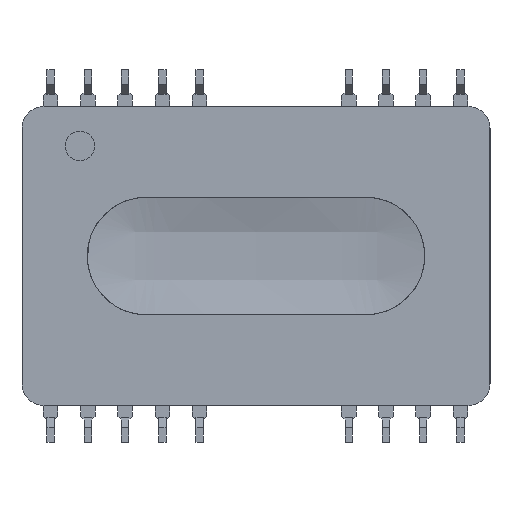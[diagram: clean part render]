
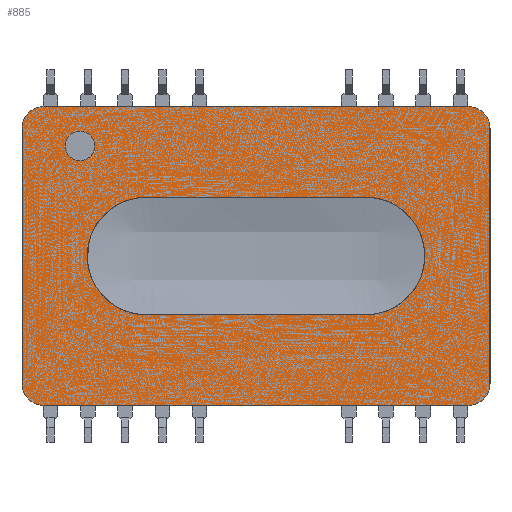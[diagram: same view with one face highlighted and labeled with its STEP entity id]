
A CAD part, front view. The second image highlights one B-rep face of the part: STEP entity #885.
In plain terms, the highlighted planar face has unit normal (0, -1, 0).
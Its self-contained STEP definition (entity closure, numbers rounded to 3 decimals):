
#563 = VERTEX_POINT ( 'NONE', #12328 ) ;
#565 = EDGE_CURVE ( 'NONE', #563, #566, #12327, .T. ) ;
#566 = VERTEX_POINT ( 'NONE', #12322 ) ;
#789 = EDGE_CURVE ( 'NONE', #863, #790, #12698, .T. ) ;
#790 = VERTEX_POINT ( 'NONE', #12691 ) ;
#799 = EDGE_CURVE ( 'NONE', #817, #800, #12681, .T. ) ;
#800 = VERTEX_POINT ( 'NONE', #12734 ) ;
#815 = EDGE_CURVE ( 'NONE', #816, #817, #12715, .T. ) ;
#816 = VERTEX_POINT ( 'NONE', #12705 ) ;
#817 = VERTEX_POINT ( 'NONE', #12704 ) ;
#830 = EDGE_LOOP ( 'NONE', ( #886, #890, #893, #896 ) ) ;
#835 = EDGE_CURVE ( 'NONE', #854, #836, #12744, .T. ) ;
#836 = VERTEX_POINT ( 'NONE', #12737 ) ;
#844 = EDGE_CURVE ( 'NONE', #836, #845, #12788, .T. ) ;
#845 = VERTEX_POINT ( 'NONE', #12783 ) ;
#853 = EDGE_CURVE ( 'NONE', #790, #854, #12772, .T. ) ;
#854 = VERTEX_POINT ( 'NONE', #12767 ) ;
#862 = EDGE_CURVE ( 'NONE', #800, #863, #12821, .T. ) ;
#863 = VERTEX_POINT ( 'NONE', #12816 ) ;
#874 = ORIENTED_EDGE ( 'NONE', *, *, #875, .F. ) ;
#875 = EDGE_CURVE ( 'NONE', #566, #563, #12802, .T. ) ;
#876 = ORIENTED_EDGE ( 'NONE', *, *, #565, .F. ) ;
#877 = EDGE_LOOP ( 'NONE', ( #878, #879, #880, #881, #882, #883, #884, #940 ) ) ;
#878 = ORIENTED_EDGE ( 'NONE', *, *, #815, .F. ) ;
#879 = ORIENTED_EDGE ( 'NONE', *, *, #906, .F. ) ;
#880 = ORIENTED_EDGE ( 'NONE', *, *, #844, .F. ) ;
#881 = ORIENTED_EDGE ( 'NONE', *, *, #835, .F. ) ;
#882 = ORIENTED_EDGE ( 'NONE', *, *, #853, .F. ) ;
#883 = ORIENTED_EDGE ( 'NONE', *, *, #789, .F. ) ;
#884 = ORIENTED_EDGE ( 'NONE', *, *, #862, .F. ) ;
#885 = ADVANCED_FACE ( 'NONE', ( #12856, #12855, #12854 ), #12853, .T. ) ;
#886 = ORIENTED_EDGE ( 'NONE', *, *, #887, .F. ) ;
#887 = EDGE_CURVE ( 'NONE', #888, #889, #12851, .T. ) ;
#888 = VERTEX_POINT ( 'NONE', #12843 ) ;
#889 = VERTEX_POINT ( 'NONE', #12842 ) ;
#890 = ORIENTED_EDGE ( 'NONE', *, *, #891, .F. ) ;
#891 = EDGE_CURVE ( 'NONE', #892, #888, #12841, .T. ) ;
#892 = VERTEX_POINT ( 'NONE', #12837 ) ;
#893 = ORIENTED_EDGE ( 'NONE', *, *, #894, .F. ) ;
#894 = EDGE_CURVE ( 'NONE', #895, #892, #12836, .T. ) ;
#895 = VERTEX_POINT ( 'NONE', #12831 ) ;
#896 = ORIENTED_EDGE ( 'NONE', *, *, #897, .F. ) ;
#897 = EDGE_CURVE ( 'NONE', #889, #895, #12896, .T. ) ;
#898 = EDGE_LOOP ( 'NONE', ( #874, #876 ) ) ;
#906 = EDGE_CURVE ( 'NONE', #845, #816, #12887, .T. ) ;
#940 = ORIENTED_EDGE ( 'NONE', *, *, #799, .F. ) ;
#12322 = CARTESIAN_POINT ( 'NONE',  ( -12., 0., 6.5 ) ) ;
#12323 = DIRECTION ( 'NONE',  ( 0., 0., -1. ) ) ;
#12324 = DIRECTION ( 'NONE',  ( 0., -1., 0. ) ) ;
#12325 = CARTESIAN_POINT ( 'NONE',  ( -12., 0., 7.5 ) ) ;
#12326 = AXIS2_PLACEMENT_3D ( 'NONE', #12325, #12324, #12323 ) ;
#12327 = CIRCLE ( 'NONE', #12326, 1. ) ;
#12328 = CARTESIAN_POINT ( 'NONE',  ( -12., 0., 8.5 ) ) ;
#12673 = DIRECTION ( 'NONE',  ( 0., 0., 1. ) ) ;
#12674 = VECTOR ( 'NONE', #12673, 1000. ) ;
#12675 = CARTESIAN_POINT ( 'NONE',  ( -15.95, 0., -8.7 ) ) ;
#12681 = LINE ( 'NONE', #12675, #12674 ) ;
#12691 = CARTESIAN_POINT ( 'NONE',  ( 14.45, 0., 10.2 ) ) ;
#12692 = DIRECTION ( 'NONE',  ( 1., 0., 0. ) ) ;
#12693 = VECTOR ( 'NONE', #12692, 1000. ) ;
#12694 = CARTESIAN_POINT ( 'NONE',  ( -14.45, 0., 10.2 ) ) ;
#12698 = LINE ( 'NONE', #12694, #12693 ) ;
#12704 = CARTESIAN_POINT ( 'NONE',  ( -15.95, 0., -8.7 ) ) ;
#12705 = CARTESIAN_POINT ( 'NONE',  ( -14.45, 0., -10.2 ) ) ;
#12706 = DIRECTION ( 'NONE',  ( 0., 0., -1. ) ) ;
#12707 = DIRECTION ( 'NONE',  ( 0., 1., 0. ) ) ;
#12708 = CARTESIAN_POINT ( 'NONE',  ( -14.45, 0., -8.7 ) ) ;
#12709 = AXIS2_PLACEMENT_3D ( 'NONE', #12708, #12707, #12706 ) ;
#12715 = CIRCLE ( 'NONE', #12709, 1.5 ) ;
#12734 = CARTESIAN_POINT ( 'NONE',  ( -15.95, 0., 8.7 ) ) ;
#12737 = CARTESIAN_POINT ( 'NONE',  ( 15.95, 0., -8.7 ) ) ;
#12738 = DIRECTION ( 'NONE',  ( 0., 0., -1. ) ) ;
#12739 = VECTOR ( 'NONE', #12738, 1000. ) ;
#12740 = CARTESIAN_POINT ( 'NONE',  ( 15.95, 0., 8.7 ) ) ;
#12744 = LINE ( 'NONE', #12740, #12739 ) ;
#12767 = CARTESIAN_POINT ( 'NONE',  ( 15.95, 0., 8.7 ) ) ;
#12768 = DIRECTION ( 'NONE',  ( 0., 0., -1. ) ) ;
#12769 = DIRECTION ( 'NONE',  ( 0., 1., 0. ) ) ;
#12770 = CARTESIAN_POINT ( 'NONE',  ( 14.45, 0., 8.7 ) ) ;
#12771 = AXIS2_PLACEMENT_3D ( 'NONE', #12770, #12769, #12768 ) ;
#12772 = CIRCLE ( 'NONE', #12771, 1.5 ) ;
#12783 = CARTESIAN_POINT ( 'NONE',  ( 14.45, 0., -10.2 ) ) ;
#12784 = DIRECTION ( 'NONE',  ( 0., 0., -1. ) ) ;
#12785 = DIRECTION ( 'NONE',  ( 0., 1., 0. ) ) ;
#12786 = CARTESIAN_POINT ( 'NONE',  ( 14.45, 0., -8.7 ) ) ;
#12787 = AXIS2_PLACEMENT_3D ( 'NONE', #12786, #12785, #12784 ) ;
#12788 = CIRCLE ( 'NONE', #12787, 1.5 ) ;
#12802 = CIRCLE ( 'NONE', #12860, 1. ) ;
#12816 = CARTESIAN_POINT ( 'NONE',  ( -14.45, 0., 10.2 ) ) ;
#12817 = DIRECTION ( 'NONE',  ( 0., 0., -1. ) ) ;
#12818 = DIRECTION ( 'NONE',  ( 0., 1., 0. ) ) ;
#12819 = CARTESIAN_POINT ( 'NONE',  ( -14.45, 0., 8.7 ) ) ;
#12820 = AXIS2_PLACEMENT_3D ( 'NONE', #12819, #12818, #12817 ) ;
#12821 = CIRCLE ( 'NONE', #12820, 1.5 ) ;
#12831 = CARTESIAN_POINT ( 'NONE',  ( 7.5, 0., -4. ) ) ;
#12832 = DIRECTION ( 'NONE',  ( 0., 0., -1. ) ) ;
#12833 = DIRECTION ( 'NONE',  ( 0., -1., 0. ) ) ;
#12834 = CARTESIAN_POINT ( 'NONE',  ( 7.5, 0., 0. ) ) ;
#12835 = AXIS2_PLACEMENT_3D ( 'NONE', #12834, #12833, #12832 ) ;
#12836 = CIRCLE ( 'NONE', #12835, 4. ) ;
#12837 = CARTESIAN_POINT ( 'NONE',  ( 7.5, 0., 4. ) ) ;
#12838 = DIRECTION ( 'NONE',  ( -1., 0., 0. ) ) ;
#12839 = VECTOR ( 'NONE', #12838, 1000. ) ;
#12840 = CARTESIAN_POINT ( 'NONE',  ( -14.45, 0., 4. ) ) ;
#12841 = LINE ( 'NONE', #12840, #12839 ) ;
#12842 = CARTESIAN_POINT ( 'NONE',  ( -7.5, 0., -4. ) ) ;
#12843 = CARTESIAN_POINT ( 'NONE',  ( -7.5, 0., 4. ) ) ;
#12844 = DIRECTION ( 'NONE',  ( 0., 0., -1. ) ) ;
#12845 = DIRECTION ( 'NONE',  ( 0., -1., 0. ) ) ;
#12846 = CARTESIAN_POINT ( 'NONE',  ( -7.5, 0., 0. ) ) ;
#12847 = AXIS2_PLACEMENT_3D ( 'NONE', #12846, #12845, #12844 ) ;
#12848 = DIRECTION ( 'NONE',  ( 0., 0., -1. ) ) ;
#12849 = DIRECTION ( 'NONE',  ( 0., -1., 0. ) ) ;
#12850 = AXIS2_PLACEMENT_3D ( 'NONE', #12852, #12849, #12848 ) ;
#12851 = CIRCLE ( 'NONE', #12847, 4. ) ;
#12852 = CARTESIAN_POINT ( 'NONE',  ( -14.45, 0., -8.7 ) ) ;
#12853 = PLANE ( 'NONE',  #12850 ) ;
#12854 = FACE_OUTER_BOUND ( 'NONE', #877, .T. ) ;
#12855 = FACE_BOUND ( 'NONE', #898, .T. ) ;
#12856 = FACE_BOUND ( 'NONE', #830, .T. ) ;
#12857 = DIRECTION ( 'NONE',  ( 0., 0., -1. ) ) ;
#12858 = DIRECTION ( 'NONE',  ( 0., -1., 0. ) ) ;
#12859 = CARTESIAN_POINT ( 'NONE',  ( -12., 0., 7.5 ) ) ;
#12860 = AXIS2_PLACEMENT_3D ( 'NONE', #12859, #12858, #12857 ) ;
#12879 = DIRECTION ( 'NONE',  ( -1., 0., 0. ) ) ;
#12880 = VECTOR ( 'NONE', #12879, 1000. ) ;
#12881 = CARTESIAN_POINT ( 'NONE',  ( 14.45, 0., -10.2 ) ) ;
#12887 = LINE ( 'NONE', #12881, #12880 ) ;
#12893 = DIRECTION ( 'NONE',  ( 1., 0., 0. ) ) ;
#12894 = VECTOR ( 'NONE', #12893, 1000. ) ;
#12895 = CARTESIAN_POINT ( 'NONE',  ( -14.45, 0., -4. ) ) ;
#12896 = LINE ( 'NONE', #12895, #12894 ) ;
